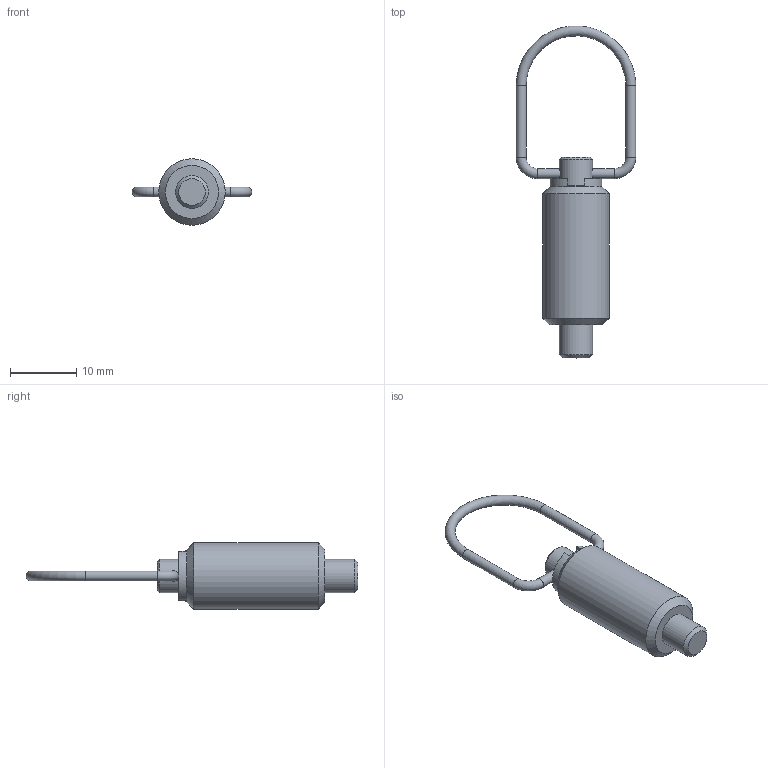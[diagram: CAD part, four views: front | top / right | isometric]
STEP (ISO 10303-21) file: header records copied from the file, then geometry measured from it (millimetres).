
FILE_DESCRIPTION( ( 'STEP AP203' ), '1' );
FILE_NAME( 'C:/Temp/Ganter_Step_05_03_2020/data/3_1/gn_413/gn413_st/gn413_st_a/Steel-Indexing plunger GN 413-5-M10-A-ST (deactivated).stp', '2020-03-12T09:10:14', ( 'License CC BY-ND 4.0' ), ( 'CADENAS' ), ' ', 'PARTsolutions', ' ' );
FILE_SCHEMA( ( 'CONFIG_CONTROL_DESIGN' ) );
Length unit declared in the file: millimetre
Products named in the file (3): Steel-Indexing plunger GN 413-5-M10-A-ST (deactivated); _Steel-Indexing plunger  GN 413-5-M10-A-ST (deactivated)_f; _Steel-Indexing plunger GN 413-5-M10-A-ST (deactivated)_b
Assembly tree (2 placements, depth 2):
  Steel-Indexing plunger GN 413-5-M10-A-ST (deactivated)
    _Steel-Indexing plunger  GN 413-5-M10-A-ST (deactivated)_f
    _Steel-Indexing plunger GN 413-5-M10-A-ST (deactivated)_b
Bounding box: 18 x 49.98 x 10 mm (x, y, z)
Volume: 1826 mm3; surface area: 1991.5 mm2
Topology: 2 solids, 2 shells, 38 faces, 81 edges, 50 vertices
Faces by surface type: plane 15, cylinder 13, cone 7, torus 3
Full cylindrical faces by diameter (mm): 1.5 x4, 5 x4, 5.3 x1, 6.5 x2, 7.8 x1, 10 x1
Entity records: 1026 total; most frequent: CARTESIAN_POINT 189, DIRECTION 168, ORIENTED_EDGE 106, AXIS2_PLACEMENT_3D 76, EDGE_LOOP 68, FACE_OUTER_BOUND 54, EDGE_CURVE 53, VERTEX_POINT 45
